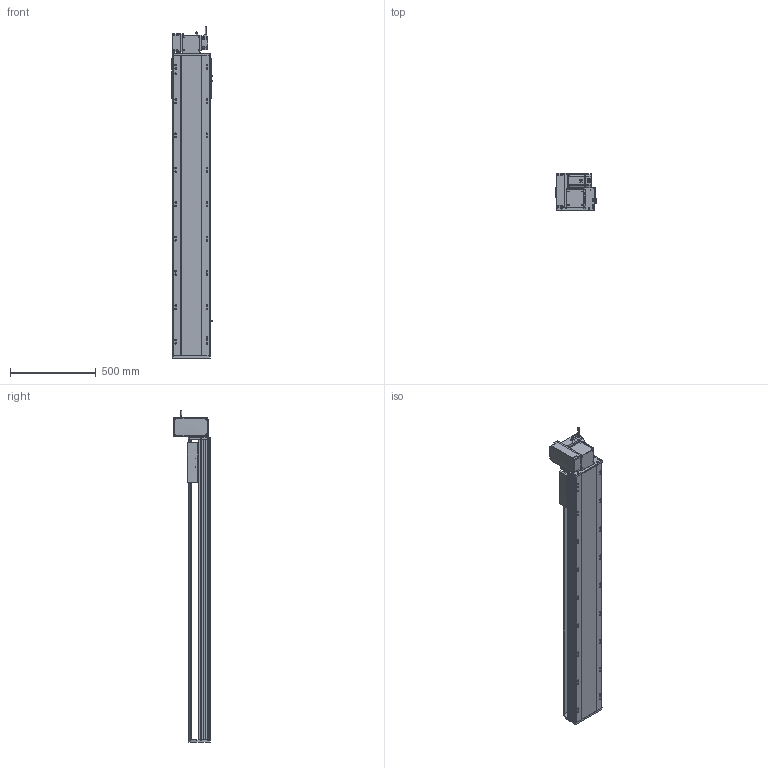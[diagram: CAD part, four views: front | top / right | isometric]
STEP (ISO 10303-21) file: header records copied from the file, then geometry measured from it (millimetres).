
FILE_DESCRIPTION (( 'STEP AP214' ), '1' );
FILE_NAME ('RTB22S-XX-1400-LW-M75-C4.STEP', '2025-12-12T05:57:19', ( '' ), ( '' ), 'SwSTEP 2.0', 'SolidWorks 2018', '' );
FILE_SCHEMA (( 'AUTOMOTIVE_DESIGN' ));
Length unit declared in the file: millimetre
Products named in the file (14): RTB22S-GY-008-M75--萇儂啣^RTB22S-LW-々湍釱蚾饜_RTB22S-XX-XX-LW-M75-C4; RTB22S-XX-1400-LW-M75-C4; 750W萇儂^RTB22S-XX-XX-LW-M75-C4; RTH22-GY-013外置感应片^RTB22S-XX-XX-LW-M75-C4; OMRON EE-SX672 传感器^RTB22S-XX-XX-LW-M75-C4; RTB22S-GY-005P^RTB22S-LW-々湍釱蚾饜_RTB22S-XX-XX-LW-M75-C4; RTB22S-GY-007奻裔^RTB22S-XX-XX-LW-M75-C4; RTB22S-L-004賑釱^RTB22S-XX-XX-LW-M75-C4; RTB22S-LW-々湍釱蚾饜^RTB22S-XX-XX-LW-M75-C4; RTB22S-L-011菁釱^RTB22S-XX-XX-LW-M75-C4; RTB22S-GY-018P^RTB22S-LW-々湍釱蚾饜_RTB22S-XX-XX-LW-M75-C4; RTB22S-GY-001耜裔^RTB22S-XX-XX-LW-M75-C4; RTB22S-GY-017P^RTB22S-LW-々湍釱蚾饜_RTB22S-XX-XX-LW-M75-C4; RTB22S-GY-014--々湍釱^RTB22S-LW-々湍釱蚾饜_RTB22S-XX-XX-LW-M75-C4
Assembly tree (16 placements, depth 3):
  RTB22S-XX-1400-LW-M75-C4
    RTB22S-L-011菁釱^RTB22S-XX-XX-LW-M75-C4
    RTB22S-GY-001耜裔^RTB22S-XX-XX-LW-M75-C4
    750W萇儂^RTB22S-XX-XX-LW-M75-C4
    RTB22S-GY-007奻裔^RTB22S-XX-XX-LW-M75-C4
    RTB22S-L-004賑釱^RTB22S-XX-XX-LW-M75-C4
    RTH22-GY-013外置感应片^RTB22S-XX-XX-LW-M75-C4
    OMRON EE-SX672 传感器^RTB22S-XX-XX-LW-M75-C4  x3
    RTB22S-LW-々湍釱蚾饜^RTB22S-XX-XX-LW-M75-C4
      RTB22S-GY-014--々湍釱^RTB22S-LW-々湍釱蚾饜_RTB22S-XX-XX-LW-M75-C4
      RTB22S-GY-017P^RTB22S-LW-々湍釱蚾饜_RTB22S-XX-XX-LW-M75-C4  x2
      RTB22S-GY-005P^RTB22S-LW-々湍釱蚾饜_RTB22S-XX-XX-LW-M75-C4
      RTB22S-GY-008-M75--萇儂啣^RTB22S-LW-々湍釱蚾饜_RTB22S-XX-XX-LW-M75-C4
      RTB22S-GY-018P^RTB22S-LW-々湍釱蚾饜_RTB22S-XX-XX-LW-M75-C4
Bounding box: 238.5 x 215.5 x 1932.2 mm (x, y, z)
Volume: 25953039.1 mm3; surface area: 2681129.8 mm2
Topology: 15 solids, 15 shells, 2001 faces, 5436 edges, 3482 vertices
Faces by surface type: plane 917, cylinder 634, bspline 296, cone 142, sphere 8, torus 4
Entity records: 53426 total; most frequent: CARTESIAN_POINT 15320, ORIENTED_EDGE 7652, DIRECTION 7380, EDGE_CURVE 3826, AXIS2_PLACEMENT_3D 2610, VERTEX_POINT 2486, LINE 2160, VECTOR 2160
